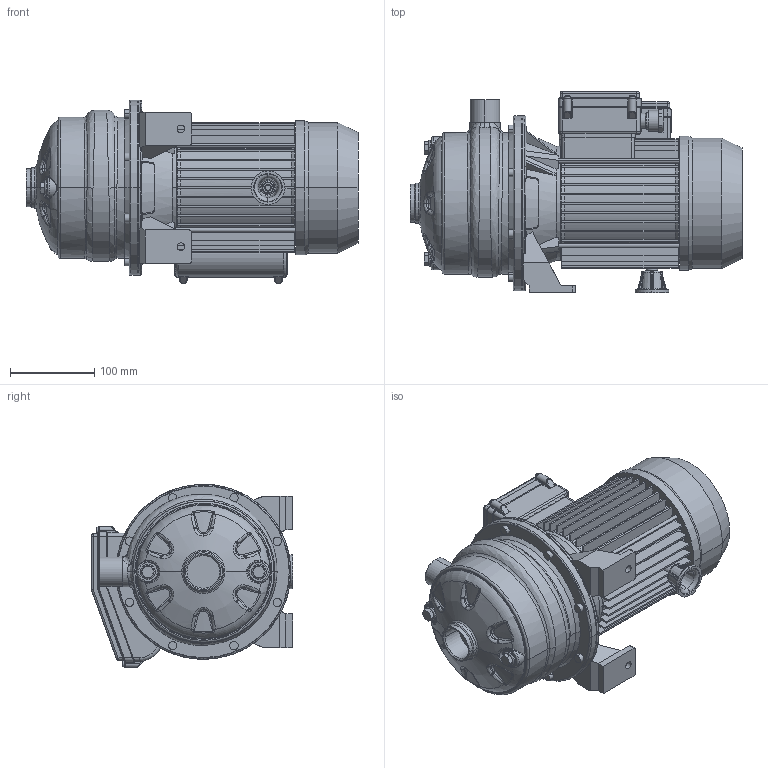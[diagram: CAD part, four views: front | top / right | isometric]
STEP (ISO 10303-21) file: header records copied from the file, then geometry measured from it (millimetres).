
FILE_DESCRIPTION((''),'2;1');
FILE_NAME('2CDXM_120_20_ASM','2019-04-08T',('rosa'),('"Ebara Pumps Europe +39.444.706811"'),'PRO/ENGINEER BY PARAMETRIC TECHNOLOGY CORPORATION, 2017170','PRO/ENGINEER BY PARAMETRIC TECHNOLOGY CORPORATION, 2017170','');
FILE_SCHEMA(('AUTOMOTIVE_DESIGN { 1 0 10303 214 1 1 1 1 }'));
Products named in the file (6): MEC_80_PACCO110_120_MONOFASE; COPRIMORSETTIERA_MEC80_90_M; 80546; 251420694; 72011; 2CDXM_120_20_ASM
Assembly tree (5 placements, depth 2):
  2CDXM_120_20_ASM
    MEC_80_PACCO110_120_MONOFASE
    COPRIMORSETTIERA_MEC80_90_M
    80546
    251420694
    72011
Bounding box: 394.5 x 239 x 218 mm (x, y, z)
Volume: 5433568.7 mm3; surface area: 673746.1 mm2
Topology: 5 solids, 5 shells, 1251 faces, 2972 edges, 1774 vertices
Faces by surface type: plane 449, cylinder 315, bspline 252, cone 130, torus 101, sphere 4
Entity records: 59045 total; most frequent: CARTESIAN_POINT 21630, ORIENTED_EDGE 5944, DIRECTION 5363, PRESENTATION_STYLE_ASSIGNMENT 2977, STYLED_ITEM 2977, CURVE_STYLE 2972, EDGE_CURVE 2972, AXIS2_PLACEMENT_3D 2141
